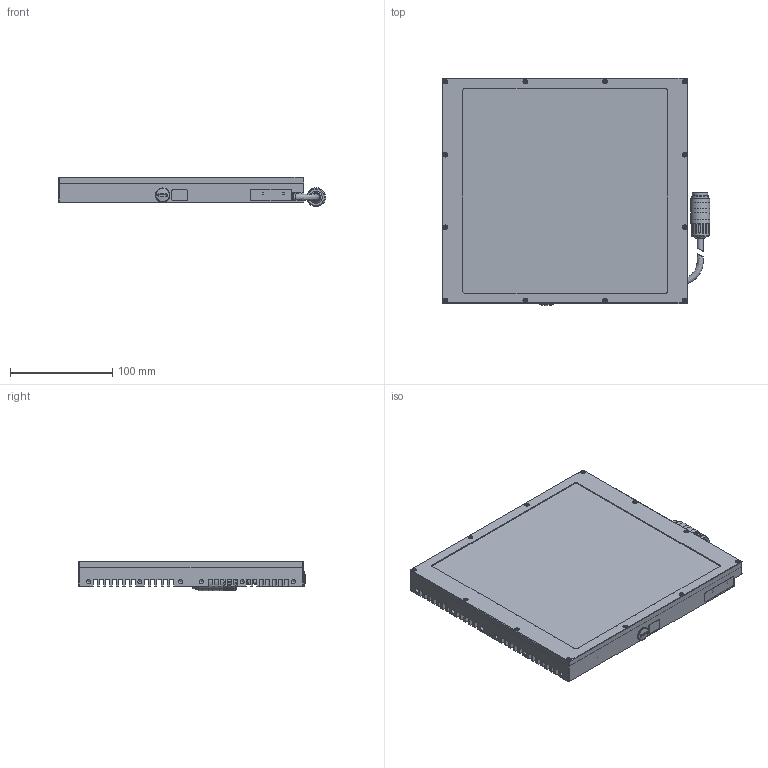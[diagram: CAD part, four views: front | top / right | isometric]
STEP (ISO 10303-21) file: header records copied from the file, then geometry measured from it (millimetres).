
FILE_DESCRIPTION(/* description */ (''),/* implementation_level */ '2;1');
FILE_NAME(/* name */ 'LG2020-BK-V02_MO',/* time_stamp */ '2022-01-19T14:52:43+01:00',/* author */ (''),/* organization */ ('iiM AG'),/* preprocessor_version */ 'ST-DEVELOPER v16.7',/* originating_system */ 'DEX',/* authorisation */ $);
FILE_SCHEMA (('CONFIG_CONTROL_DESIGN'));
Length unit declared in the file: millimetre
Products named in the file (1): LG2020-BK-V02_MO
Bounding box: 261.29 x 221.95 x 28.79 mm (x, y, z)
Volume: 592028.5 mm3; surface area: 331157.7 mm2
Topology: 3 solids, 16 shells, 1245 faces, 3359 edges, 2168 vertices
Faces by surface type: plane 560, cylinder 450, cone 188, bspline 18, torus 16, sphere 13
Full cylindrical faces by diameter (mm): 1 x12, 1.567 x24, 2 x12, 2.1 x8, 2.11 x4, 2.459 x4, 2.6 x4, 3.8 x12, 4.134 x54, 5.2 x1, 6 x2, 6.2 x1, 8 x1, 9 x1, 11 x3, 11.89 x1, 14 x1, 15 x1, 16 x1, 17.5 x1, 18.5 x3, 18.6 x2, 34.5 x1, 35 x1, 36 x1
Entity records: 50670 total; most frequent: CARTESIAN_POINT 13434, ORIENTED_EDGE 5706, DIRECTION 5647, EDGE_CURVE 2853, AXIS2_PLACEMENT_3D 2087, VERTEX_POINT 2014, FACE_BOUND 1653, EDGE_LOOP 1602
